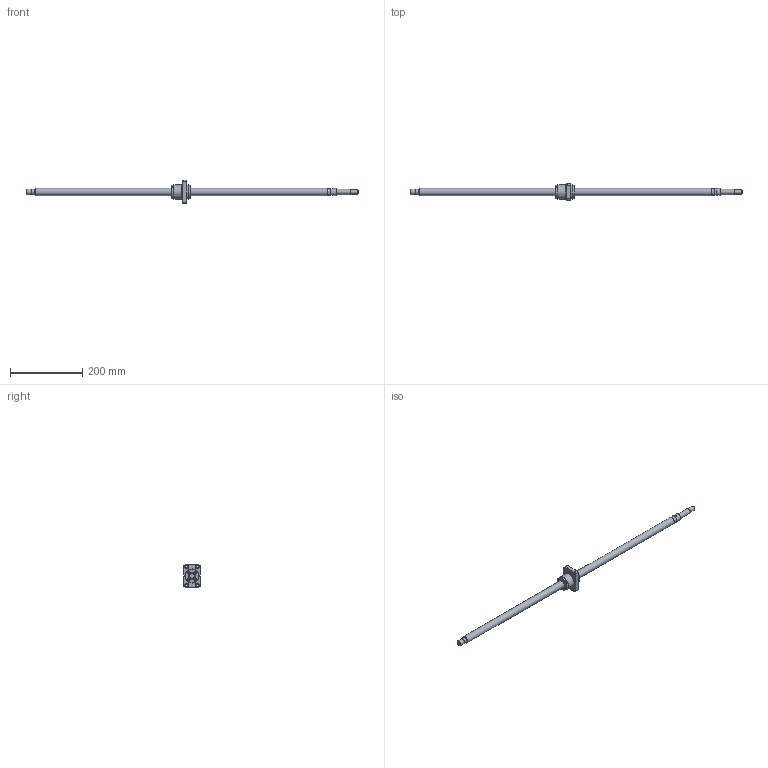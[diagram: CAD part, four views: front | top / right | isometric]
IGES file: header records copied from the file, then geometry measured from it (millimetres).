
Start section: Data from Parasolid IGES Translator 26.0.171, Copyright(c) 2006 Siemens PLM Software. All Rights Reserved.
Global section: file name: BNK2020-3.6G0+920LC5Y(4310).igs; native system: By Siemens PLM Incorporated; preprocessor: XPlus GENERIC/IGES 26.0.171; author: Noname; organization: Noname; date: 20240709.094029; units: millimetre
Bounding box: 920 x 46 x 66 mm (x, y, z)
Surface area: 74497.8 mm2 (no closed solid volume)
Topology: 0 solids, 0 shells, 139 faces, 649 edges, 586 vertices
Faces by surface type: extrusion 75, revolution 64
